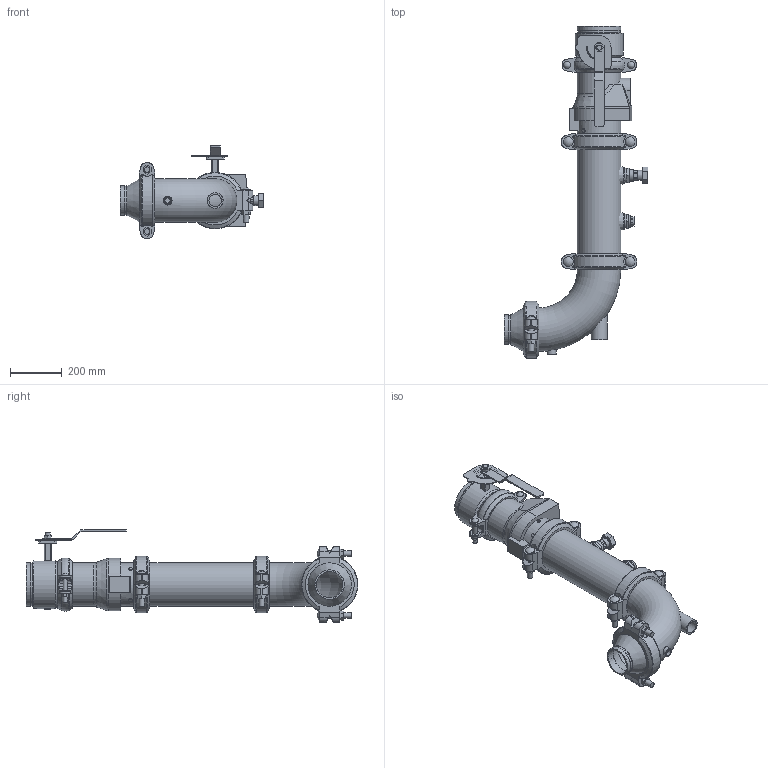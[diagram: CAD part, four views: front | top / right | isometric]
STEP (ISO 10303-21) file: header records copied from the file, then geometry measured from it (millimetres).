
FILE_DESCRIPTION(/* description */ ('VIC DVI PUMP DROP HORZ S/380G (OGSxOGS)','CAx-IF Rec.Pracs.---Representation and Presentation of Product Manufacturing Information (PMI)---4.0---2014-10-13'),/* implementation_level */ '2;1');
FILE_NAME(/* name */ 'C:\Users\kkamble\AppData\Roaming\Autodesk\ApplicationPlugins\Victaulic.Temp\A789\Victaulic_IPS_Horizontal DVI_CL 150_Series 380 (OGSxOGS)_924 (1.25)_06.0x04.0 (150x100).stp',/* time_stamp */ '2021-07-06T09:53:14+05:00',/* author */ ('Vjadhav'),/* organization */ ('Victaulic'),/* preprocessor_version */ 'ST-DEVELOPER v17.2',/* originating_system */ 'Autodesk Inventor 2019',/* authorisation */ '');
FILE_SCHEMA (('AP242_MANAGED_MODEL_BASED_3D_ENGINEERING_MIM_LF { 1 0 10303 442 1 1 4 }'));
Length unit declared in the file: inch
Products named in the file (10): 380_924 (1.25)-06.0x04.0; Pipe-06.0x04.0; 107N-06.0; 761-06.0; 924-04.0x01.25; 923-04.0x0.75; 779-06.0; 100G-06.0; 050-06.0x04.0; 177N-06.0
Assembly tree (11 placements, depth 2):
  380_924 (1.25)-06.0x04.0
    177N-06.0  x3
    Pipe-06.0x04.0
    107N-06.0
    761-06.0
    924-04.0x01.25
    923-04.0x0.75
    779-06.0
    100G-06.0
    050-06.0x04.0
Bounding box: 557.09 x 1285.94 x 359.16 mm (x, y, z)
Volume: 12327644.4 mm3; surface area: 2312643.2 mm2
Topology: 11 solids, 13 shells, 746 faces, 1918 edges, 1280 vertices
Faces by surface type: plane 408, cylinder 261, torus 27, cone 24, bspline 18, sphere 8
Full cylindrical faces by diameter (mm): 4.826 x10, 8.636 x4, 13.716 x4, 15.875 x4, 19.05 x2, 20.93 x1, 21.209 x6, 21.336 x1, 22.86 x1, 26.67 x4, 27.381 x2, 34.29 x1, 37.694 x6, 38.608 x1, 42.164 x1, 45.974 x4, 48.26 x1, 48.514 x1, 55.118 x1, 55.626 x2, 60.96 x1, 102.26 x1, 110.084 x1, 114.3 x2, 154.051 x6, 155.575 x4, 163.957 x9, 168.275 x23, 185.42 x1
Entity records: 19251 total; most frequent: CARTESIAN_POINT 4341, DIRECTION 3064, ORIENTED_EDGE 2816, EDGE_CURVE 1408, AXIS2_PLACEMENT_3D 1171, VERTEX_POINT 944, LINE 722, VECTOR 722
